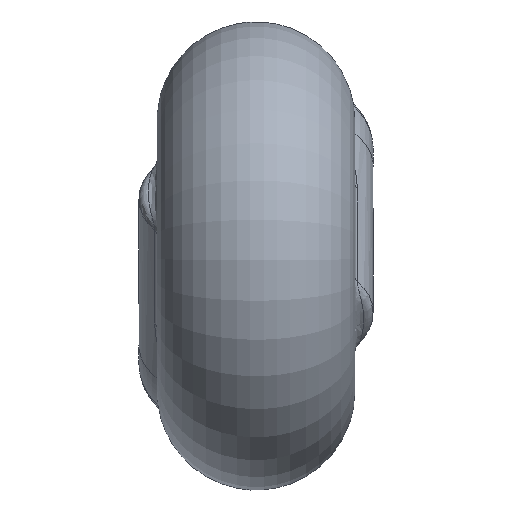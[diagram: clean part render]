
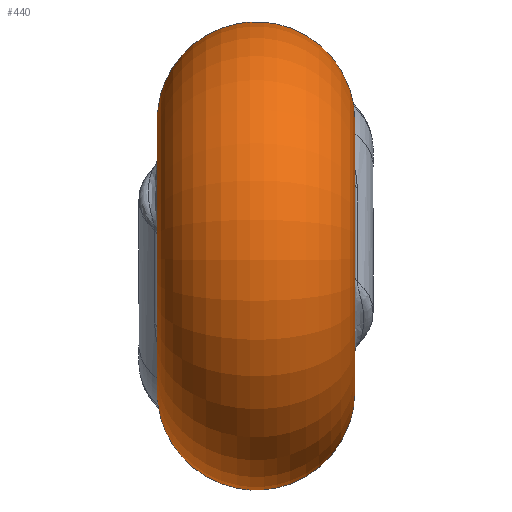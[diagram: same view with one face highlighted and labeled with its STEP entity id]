
A CAD part, left-side view. The second image highlights one B-rep face of the part: STEP entity #440.
In plain terms, the highlighted toroidal (fillet/blend) face has major radius 2.6 mm and minor radius 1.9 mm.
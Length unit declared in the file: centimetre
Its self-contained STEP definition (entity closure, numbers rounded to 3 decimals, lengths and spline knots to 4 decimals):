
#16=TOROIDAL_SURFACE('',#481,0.26,0.19);
#45=B_SPLINE_CURVE_WITH_KNOTS('',3,(#760,#761,#762,#763,#764,#765,#766,
#767,#768),.UNSPECIFIED.,.F.,.F.,(4,1,1,1,1,1,4),(-0.4621,-0.3961,
-0.3301,-0.264,-0.198,-0.132,
0.),.UNSPECIFIED.);
#47=B_SPLINE_CURVE_WITH_KNOTS('',3,(#826,#827,#828,#829,#830,#831,#832,
#833,#834),.UNSPECIFIED.,.F.,.F.,(4,1,1,1,1,1,4),(-0.4225,-0.3622,
-0.3018,-0.1811,-0.1207,-0.0604,
0.),.UNSPECIFIED.);
#49=B_SPLINE_CURVE_WITH_KNOTS('',3,(#872,#873,#874,#875,#876),
 .UNSPECIFIED.,.F.,.F.,(4,1,4),(-0.1639,-0.0819,
0.),.UNSPECIFIED.);
#52=B_SPLINE_CURVE_WITH_KNOTS('',3,(#910,#911,#912,#913,#914),
 .UNSPECIFIED.,.F.,.F.,(4,1,4),(-0.1639,-0.0819,
0.),.UNSPECIFIED.);
#53=B_SPLINE_CURVE_WITH_KNOTS('',3,(#916,#917,#918,#919,#920,#921,#922,
#923,#924,#925),.UNSPECIFIED.,.F.,.F.,(4,1,1,1,1,1,1,4),(-0.4225,
-0.3622,-0.3018,-0.2415,-0.1811,
-0.1207,-0.0604,0.),
 .UNSPECIFIED.);
#54=B_SPLINE_CURVE_WITH_KNOTS('',3,(#927,#928,#929,#930,#931,#932,#933,
#934,#935),.UNSPECIFIED.,.F.,.F.,(4,1,1,1,1,1,4),(-0.4621,-0.3961,
-0.33,-0.264,-0.198,-0.132,
0.),.UNSPECIFIED.);
#82=FACE_BOUND('',#132,.T.);
#97=FACE_OUTER_BOUND('',#131,.T.);
#131=EDGE_LOOP('',(#314,#315,#316,#317));
#132=EDGE_LOOP('',(#318,#319,#320,#321));
#167=CIRCLE('',#482,0.26);
#168=CIRCLE('',#483,0.26);
#189=VERTEX_POINT('',#709);
#191=VERTEX_POINT('',#759);
#193=VERTEX_POINT('',#825);
#195=VERTEX_POINT('',#871);
#198=VERTEX_POINT('',#908);
#199=VERTEX_POINT('',#909);
#200=VERTEX_POINT('',#915);
#201=VERTEX_POINT('',#926);
#228=EDGE_CURVE('',#189,#191,#45,.T.);
#231=EDGE_CURVE('',#191,#193,#47,.T.);
#234=EDGE_CURVE('',#193,#195,#49,.T.);
#242=EDGE_CURVE('',#198,#199,#52,.T.);
#243=EDGE_CURVE('',#200,#198,#53,.T.);
#244=EDGE_CURVE('',#201,#200,#54,.T.);
#245=EDGE_CURVE('',#201,#199,#167,.T.);
#246=EDGE_CURVE('',#189,#195,#168,.T.);
#314=ORIENTED_EDGE('',*,*,#242,.F.);
#315=ORIENTED_EDGE('',*,*,#243,.F.);
#316=ORIENTED_EDGE('',*,*,#244,.F.);
#317=ORIENTED_EDGE('',*,*,#245,.T.);
#318=ORIENTED_EDGE('',*,*,#228,.F.);
#319=ORIENTED_EDGE('',*,*,#246,.T.);
#320=ORIENTED_EDGE('',*,*,#234,.F.);
#321=ORIENTED_EDGE('',*,*,#231,.F.);
#440=ADVANCED_FACE('',(#97,#82),#16,.T.);
#481=AXIS2_PLACEMENT_3D('',#907,#551,#552);
#482=AXIS2_PLACEMENT_3D('',#936,#553,#554);
#483=AXIS2_PLACEMENT_3D('',#937,#555,#556);
#551=DIRECTION('center_axis',(0.,1.,0.));
#552=DIRECTION('ref_axis',(1.,0.,0.));
#553=DIRECTION('center_axis',(0.,-1.,0.));
#554=DIRECTION('ref_axis',(-1.,0.,0.));
#555=DIRECTION('center_axis',(0.,1.,0.));
#556=DIRECTION('ref_axis',(-1.,0.,0.));
#709=CARTESIAN_POINT('',(0.2255,-0.125,-0.1295));
#759=CARTESIAN_POINT('',(0.4366,0.0867,0.1035));
#760=CARTESIAN_POINT('Ctrl Pts',(0.2255,-0.125,-0.1295));
#761=CARTESIAN_POINT('Ctrl Pts',(0.2405,-0.125,-0.1137));
#762=CARTESIAN_POINT('Ctrl Pts',(0.2702,-0.1248,-0.0821));
#763=CARTESIAN_POINT('Ctrl Pts',(0.3193,-0.117,-0.0429));
#764=CARTESIAN_POINT('Ctrl Pts',(0.3706,-0.0928,
-0.0191));
#765=CARTESIAN_POINT('Ctrl Pts',(0.4124,-0.0531,
-0.0003));
#766=CARTESIAN_POINT('Ctrl Pts',(0.4488,0.0127,0.031));
#767=CARTESIAN_POINT('Ctrl Pts',(0.4472,0.0643,0.0704));
#768=CARTESIAN_POINT('Ctrl Pts',(0.4366,0.0867,0.1035));
#825=CARTESIAN_POINT('',(0.2851,-0.0772,0.2603));
#826=CARTESIAN_POINT('Ctrl Pts',(0.4366,0.0867,0.1035));
#827=CARTESIAN_POINT('Ctrl Pts',(0.4318,0.097,0.1187));
#828=CARTESIAN_POINT('Ctrl Pts',(0.4187,0.1131,0.1513));
#829=CARTESIAN_POINT('Ctrl Pts',(0.3856,0.119,0.2225));
#830=CARTESIAN_POINT('Ctrl Pts',(0.3527,0.0795,0.2871));
#831=CARTESIAN_POINT('Ctrl Pts',(0.3227,0.0126,0.307));
#832=CARTESIAN_POINT('Ctrl Pts',(0.3021,-0.0381,
0.2956));
#833=CARTESIAN_POINT('Ctrl Pts',(0.2904,-0.0657,
0.2735));
#834=CARTESIAN_POINT('Ctrl Pts',(0.2851,-0.0772,
0.2603));
#871=CARTESIAN_POINT('',(0.2204,-0.125,0.1379));
#872=CARTESIAN_POINT('Ctrl Pts',(0.2851,-0.0772,
0.2603));
#873=CARTESIAN_POINT('Ctrl Pts',(0.2778,-0.0927,
0.2422));
#874=CARTESIAN_POINT('Ctrl Pts',(0.2627,-0.1161,0.1998));
#875=CARTESIAN_POINT('Ctrl Pts',(0.2376,-0.125,0.1558));
#876=CARTESIAN_POINT('Ctrl Pts',(0.2204,-0.125,0.1379));
#907=CARTESIAN_POINT('Origin',(0.,0.065,0.));
#908=CARTESIAN_POINT('',(0.2851,0.2072,-0.2603));
#909=CARTESIAN_POINT('',(0.2204,0.255,-0.1379));
#910=CARTESIAN_POINT('Ctrl Pts',(0.2851,0.2072,-0.2603));
#911=CARTESIAN_POINT('Ctrl Pts',(0.2778,0.2227,-0.2422));
#912=CARTESIAN_POINT('Ctrl Pts',(0.2627,0.2461,-0.1998));
#913=CARTESIAN_POINT('Ctrl Pts',(0.2376,0.255,-0.1558));
#914=CARTESIAN_POINT('Ctrl Pts',(0.2204,0.255,-0.1379));
#915=CARTESIAN_POINT('',(0.4366,0.0433,-0.1035));
#916=CARTESIAN_POINT('Ctrl Pts',(0.4366,0.0433,-0.1035));
#917=CARTESIAN_POINT('Ctrl Pts',(0.4318,0.033,-0.1187));
#918=CARTESIAN_POINT('Ctrl Pts',(0.4186,0.0168,-0.1513));
#919=CARTESIAN_POINT('Ctrl Pts',(0.3939,0.0127,-0.2047));
#920=CARTESIAN_POINT('Ctrl Pts',(0.369,0.0303,-0.2548));
#921=CARTESIAN_POINT('Ctrl Pts',(0.3452,0.0674,-0.292));
#922=CARTESIAN_POINT('Ctrl Pts',(0.3227,0.1173,-0.307));
#923=CARTESIAN_POINT('Ctrl Pts',(0.3021,0.1682,-0.2957));
#924=CARTESIAN_POINT('Ctrl Pts',(0.2904,0.1957,-0.2735));
#925=CARTESIAN_POINT('Ctrl Pts',(0.2851,0.2072,-0.2603));
#926=CARTESIAN_POINT('',(0.2255,0.255,0.1295));
#927=CARTESIAN_POINT('Ctrl Pts',(0.2255,0.255,0.1295));
#928=CARTESIAN_POINT('Ctrl Pts',(0.2405,0.255,0.1137));
#929=CARTESIAN_POINT('Ctrl Pts',(0.2702,0.2548,0.0821));
#930=CARTESIAN_POINT('Ctrl Pts',(0.3193,0.247,0.0429));
#931=CARTESIAN_POINT('Ctrl Pts',(0.3707,0.2228,0.0191));
#932=CARTESIAN_POINT('Ctrl Pts',(0.4124,0.1831,0.0003));
#933=CARTESIAN_POINT('Ctrl Pts',(0.4488,0.1173,-0.031));
#934=CARTESIAN_POINT('Ctrl Pts',(0.4472,0.0657,-0.0704));
#935=CARTESIAN_POINT('Ctrl Pts',(0.4366,0.0433,-0.1035));
#936=CARTESIAN_POINT('Origin',(0.,0.255,0.));
#937=CARTESIAN_POINT('Origin',(0.,-0.125,0.));
